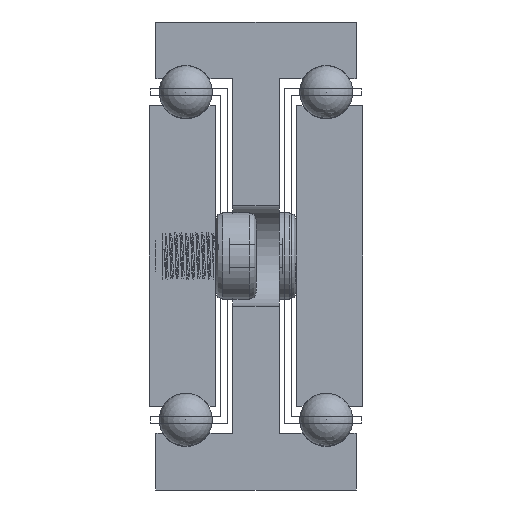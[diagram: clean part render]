
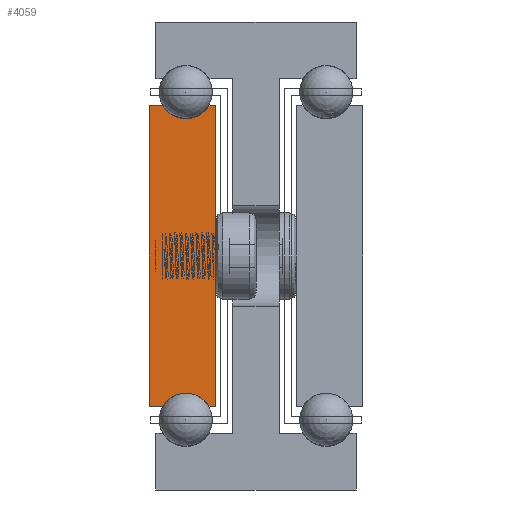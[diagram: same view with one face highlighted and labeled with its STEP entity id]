
A CAD part, front view. The second image highlights one B-rep face of the part: STEP entity #4059.
In plain terms, the highlighted planar face has unit normal (0, -1, 0).
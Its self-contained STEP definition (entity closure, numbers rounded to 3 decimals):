
#304=LINE('',#6166,#516);
#307=LINE('',#6172,#519);
#311=LINE('',#6184,#523);
#314=LINE('',#6190,#526);
#317=LINE('',#6196,#529);
#321=LINE('',#6206,#533);
#516=VECTOR('',#4926,1.);
#519=VECTOR('',#4931,1.);
#523=VECTOR('',#4943,1.);
#526=VECTOR('',#4948,1.);
#529=VECTOR('',#4953,1.);
#533=VECTOR('',#4965,1.);
#733=PLANE('',#4379);
#1065=FACE_OUTER_BOUND('',#1311,.T.);
#1311=EDGE_LOOP('',(#3180,#3181,#3182,#3183,#3184,#3185,#3186,#3187));
#1725=CIRCLE('',#4370,4.);
#1727=CIRCLE('',#4376,4.);
#2038=VERTEX_POINT('',#6163);
#2039=VERTEX_POINT('',#6165);
#2041=VERTEX_POINT('',#6171);
#2043=VERTEX_POINT('',#6177);
#2045=VERTEX_POINT('',#6183);
#2047=VERTEX_POINT('',#6189);
#2049=VERTEX_POINT('',#6195);
#2051=VERTEX_POINT('',#6201);
#2572=EDGE_CURVE('',#2039,#2038,#304,.T.);
#2575=EDGE_CURVE('',#2041,#2039,#307,.T.);
#2578=EDGE_CURVE('',#2043,#2041,#1725,.T.);
#2581=EDGE_CURVE('',#2045,#2043,#311,.T.);
#2584=EDGE_CURVE('',#2047,#2045,#314,.T.);
#2587=EDGE_CURVE('',#2049,#2047,#317,.T.);
#2590=EDGE_CURVE('',#2051,#2049,#1727,.T.);
#2593=EDGE_CURVE('',#2038,#2051,#321,.T.);
#3180=ORIENTED_EDGE('',*,*,#2593,.T.);
#3181=ORIENTED_EDGE('',*,*,#2590,.T.);
#3182=ORIENTED_EDGE('',*,*,#2587,.T.);
#3183=ORIENTED_EDGE('',*,*,#2584,.T.);
#3184=ORIENTED_EDGE('',*,*,#2581,.T.);
#3185=ORIENTED_EDGE('',*,*,#2578,.T.);
#3186=ORIENTED_EDGE('',*,*,#2575,.T.);
#3187=ORIENTED_EDGE('',*,*,#2572,.T.);
#4059=ADVANCED_FACE('',(#1065),#733,.T.);
#4370=AXIS2_PLACEMENT_3D('',#6178,#4937,#4938);
#4376=AXIS2_PLACEMENT_3D('',#6202,#4959,#4960);
#4379=AXIS2_PLACEMENT_3D('',#6208,#4968,#4969);
#4926=DIRECTION('',(0.,0.,-1.));
#4931=DIRECTION('',(-1.,0.,0.));
#4937=DIRECTION('center_axis',(0.,1.,0.));
#4938=DIRECTION('ref_axis',(-0.866,0.,-0.5));
#4943=DIRECTION('',(-1.,0.,0.));
#4948=DIRECTION('',(0.,0.,1.));
#4953=DIRECTION('',(1.,0.,0.));
#4959=DIRECTION('center_axis',(0.,1.,0.));
#4960=DIRECTION('ref_axis',(0.866,0.,0.5));
#4965=DIRECTION('',(1.,0.,0.));
#4968=DIRECTION('center_axis',(0.,-1.,0.));
#4969=DIRECTION('ref_axis',(1.,0.,0.));
#6163=CARTESIAN_POINT('',(-4373.236,451.087,552.5));
#6165=CARTESIAN_POINT('',(-4373.236,451.087,597.5));
#6166=CARTESIAN_POINT('',(-4373.236,451.087,552.5));
#6171=CARTESIAN_POINT('',(-4371.201,451.087,597.5));
#6172=CARTESIAN_POINT('',(-4373.236,451.087,597.5));
#6177=CARTESIAN_POINT('',(-4364.272,451.087,597.5));
#6178=CARTESIAN_POINT('Origin',(-4367.736,451.087,599.5));
#6183=CARTESIAN_POINT('',(-4363.236,451.087,597.5));
#6184=CARTESIAN_POINT('',(-4364.272,451.087,597.5));
#6189=CARTESIAN_POINT('',(-4363.236,451.087,552.5));
#6190=CARTESIAN_POINT('',(-4363.236,451.087,597.5));
#6195=CARTESIAN_POINT('',(-4364.272,451.087,552.5));
#6196=CARTESIAN_POINT('',(-4363.236,451.087,552.5));
#6201=CARTESIAN_POINT('',(-4371.201,451.087,552.5));
#6202=CARTESIAN_POINT('Origin',(-4367.736,451.087,550.5));
#6206=CARTESIAN_POINT('',(-4371.201,451.087,552.5));
#6208=CARTESIAN_POINT('Origin',(-4368.242,451.087,575.));
